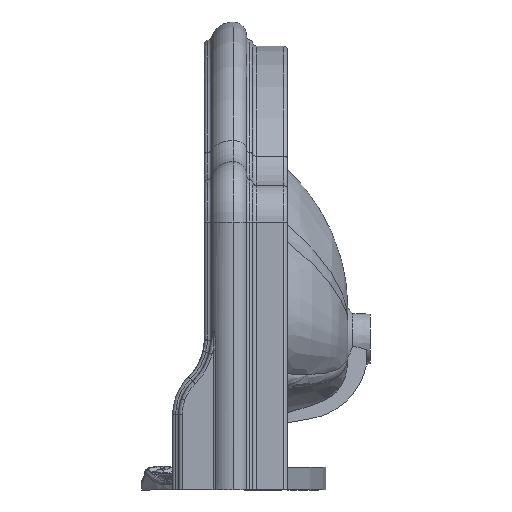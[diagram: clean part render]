
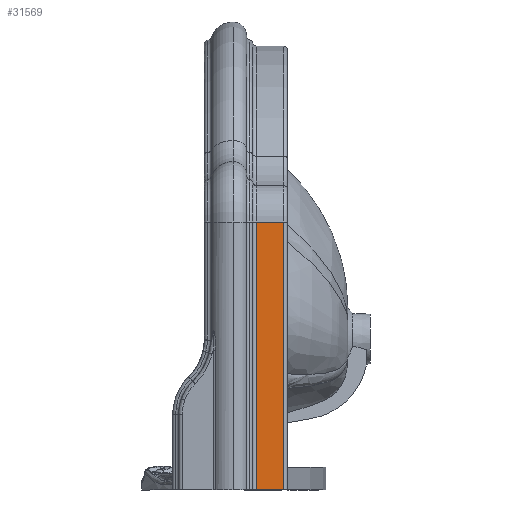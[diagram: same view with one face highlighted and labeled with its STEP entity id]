
A CAD part, left-side view. The second image highlights one B-rep face of the part: STEP entity #31569.
In plain terms, the highlighted planar face has unit normal (-1, 0, 0).
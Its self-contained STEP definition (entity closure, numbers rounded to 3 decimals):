
#2138 = EDGE_CURVE ( 'NONE', #24343, #48083, #50335, .T. ) ;
#2969 = ORIENTED_EDGE ( 'NONE', *, *, #51540, .F. ) ;
#5731 = VERTEX_POINT ( 'NONE', #30007 ) ;
#13860 = ORIENTED_EDGE ( 'NONE', *, *, #2138, .T. ) ;
#14242 = EDGE_CURVE ( 'NONE', #48083, #28290, #51694, .T. ) ;
#19527 = EDGE_LOOP ( 'NONE', ( #13860, #57961, #2969, #21891 ) ) ;
#21453 = CARTESIAN_POINT ( 'NONE',  ( -518., -64., 155. ) ) ;
#21891 = ORIENTED_EDGE ( 'NONE', *, *, #34076, .T. ) ;
#22130 = LINE ( 'NONE', #52225, #48639 ) ;
#23271 = CARTESIAN_POINT ( 'NONE',  ( -518., -105., 155. ) ) ;
#24343 = VERTEX_POINT ( 'NONE', #39444 ) ;
#24388 = CARTESIAN_POINT ( 'NONE',  ( -518., -105., -200. ) ) ;
#25069 = CARTESIAN_POINT ( 'NONE',  ( -518., -64., -200. ) ) ;
#25280 = DIRECTION ( 'NONE',  ( 0., -1., 0. ) ) ;
#26904 = DIRECTION ( 'NONE',  ( 0., 0., -1. ) ) ;
#28290 = VERTEX_POINT ( 'NONE', #23271 ) ;
#29420 = CARTESIAN_POINT ( 'NONE',  ( -518., -105., 155. ) ) ;
#30007 = CARTESIAN_POINT ( 'NONE',  ( -518., -69., 155. ) ) ;
#31569 = ADVANCED_FACE ( 'NONE', ( #59891 ), #51658, .F. ) ;
#34076 = EDGE_CURVE ( 'NONE', #5731, #24343, #39604, .T. ) ;
#35090 = CARTESIAN_POINT ( 'NONE',  ( -518., -69., -200. ) ) ;
#38269 = AXIS2_PLACEMENT_3D ( 'NONE', #21453, #56634, #26904 ) ;
#39444 = CARTESIAN_POINT ( 'NONE',  ( -518., -69., -200. ) ) ;
#39604 = LINE ( 'NONE', #35090, #64417 ) ;
#48083 = VERTEX_POINT ( 'NONE', #24388 ) ;
#48639 = VECTOR ( 'NONE', #57208, 1000. ) ;
#49550 = VECTOR ( 'NONE', #25280, 1000. ) ;
#50335 = LINE ( 'NONE', #25069, #49550 ) ;
#51540 = EDGE_CURVE ( 'NONE', #5731, #28290, #22130, .T. ) ;
#51658 = PLANE ( 'NONE',  #38269 ) ;
#51694 = LINE ( 'NONE', #29420, #53277 ) ;
#52225 = CARTESIAN_POINT ( 'NONE',  ( -518., -64., 155. ) ) ;
#53277 = VECTOR ( 'NONE', #55718, 1000. ) ;
#54792 = DIRECTION ( 'NONE',  ( 0., 0., -1. ) ) ;
#55718 = DIRECTION ( 'NONE',  ( 0., 0., 1. ) ) ;
#56634 = DIRECTION ( 'NONE',  ( 1., 0., 0. ) ) ;
#57208 = DIRECTION ( 'NONE',  ( 0., -1., 0. ) ) ;
#57961 = ORIENTED_EDGE ( 'NONE', *, *, #14242, .T. ) ;
#59891 = FACE_OUTER_BOUND ( 'NONE', #19527, .T. ) ;
#64417 = VECTOR ( 'NONE', #54792, 1000. ) ;
